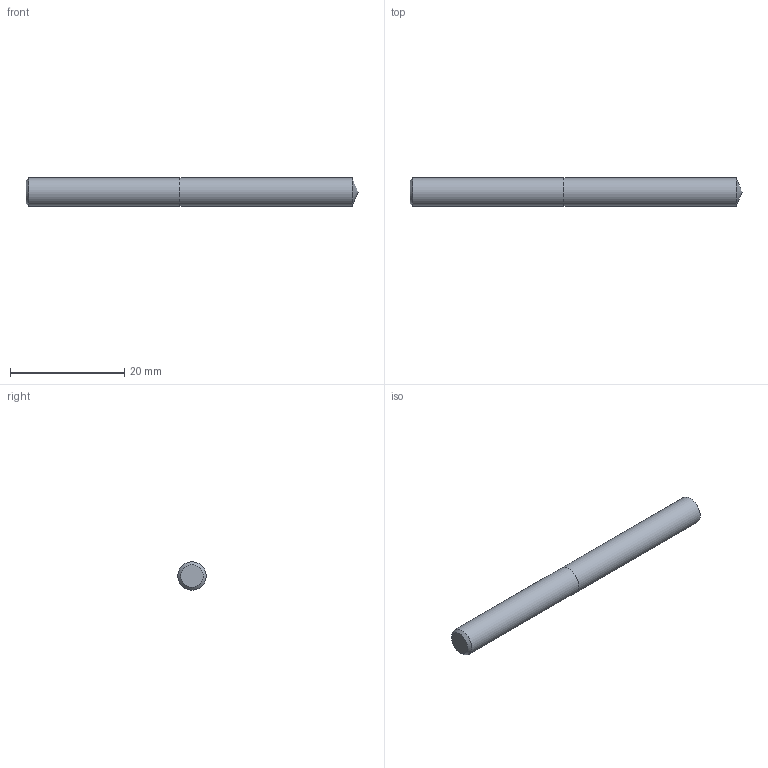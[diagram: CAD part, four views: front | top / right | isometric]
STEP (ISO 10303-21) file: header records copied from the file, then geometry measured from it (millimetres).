
FILE_DESCRIPTION (( 'STEP AP214' ), '1' );
FILE_NAME ('03-2351.STEP', '2022-06-03T06:35:41', ( 'USER' ), ( '' ), 'SwSTEP 2.0', 'SolidWorks 2018', '' );
FILE_SCHEMA (( 'AUTOMOTIVE_DESIGN' ));
Length unit declared in the file: inch
Products named in the file (1): 03-2351
Bounding box: 58.18 x 4.98 x 4.98 mm (x, y, z)
Volume: 1117.3 mm3; surface area: 968.4 mm2
Topology: 2 solids, 2 shells, 7 faces, 11 edges, 7 vertices
Faces by surface type: plane 3, cylinder 2, cone 2
Full cylindrical faces by diameter (mm): 4.978 x2
Entity records: 214 total; most frequent: DIRECTION 26, CARTESIAN_POINT 18, AXIS2_PLACEMENT_3D 13, ORIENTED_EDGE 10, EDGE_LOOP 10, FACE_OUTER_BOUND 9, DIMENSIONAL_EXPONENTS 7, ADVANCED_FACE 7
